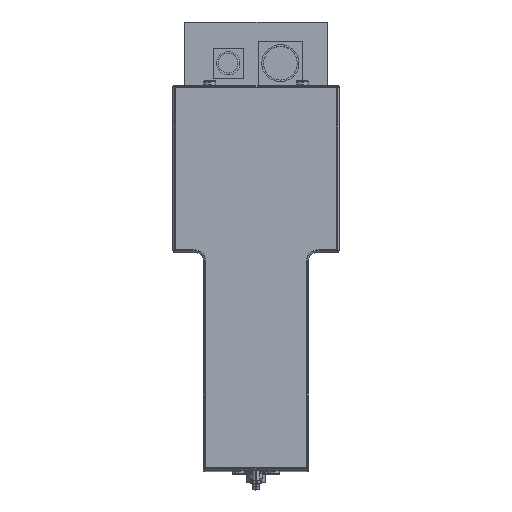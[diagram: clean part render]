
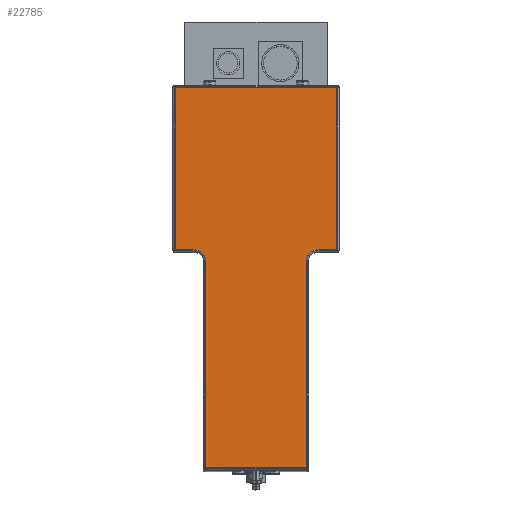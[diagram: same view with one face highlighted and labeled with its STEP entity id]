
A CAD part, top view. The second image highlights one B-rep face of the part: STEP entity #22785.
In plain terms, the highlighted planar face has unit normal (0, 0, 1).
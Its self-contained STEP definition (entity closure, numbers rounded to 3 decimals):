
#38 = CARTESIAN_POINT ( 'NONE',  ( -25.986, -161.771, 1216. ) ) ;
#72 = VERTEX_POINT ( 'NONE', #31487 ) ;
#200 = EDGE_CURVE ( 'NONE', #40562, #72, #324, .T. ) ;
#324 = LINE ( 'NONE', #8336, #24368 ) ;
#518 = ORIENTED_EDGE ( 'NONE', *, *, #16438, .T. ) ;
#670 = LINE ( 'NONE', #4030, #17374 ) ;
#870 = LINE ( 'NONE', #28103, #32304 ) ;
#930 = CARTESIAN_POINT ( 'NONE',  ( -53.986, 165.729, 1216. ) ) ;
#1630 = CARTESIAN_POINT ( 'NONE',  ( -51.986, 25.729, 1216. ) ) ;
#2007 = CARTESIAN_POINT ( 'NONE',  ( -34.986, 25.729, 1216. ) ) ;
#3764 = AXIS2_PLACEMENT_3D ( 'NONE', #37260, #18423, #40439 ) ;
#3943 = CARTESIAN_POINT ( 'NONE',  ( -25.986, 16.729, 1216. ) ) ;
#4030 = CARTESIAN_POINT ( 'NONE',  ( -25.986, -163.771, 1216. ) ) ;
#4424 = VERTEX_POINT ( 'NONE', #22970 ) ;
#5037 = VERTEX_POINT ( 'NONE', #16910 ) ;
#5141 = EDGE_CURVE ( 'NONE', #38203, #38006, #6066, .T. ) ;
#6066 = CIRCLE ( 'NONE', #28662, 9. ) ;
#6291 = DIRECTION ( 'NONE',  ( 0., 1., 0. ) ) ;
#6299 = VERTEX_POINT ( 'NONE', #38 ) ;
#7641 = CARTESIAN_POINT ( 'NONE',  ( 89.014, 25.729, 1216. ) ) ;
#7949 = LINE ( 'NONE', #7641, #31052 ) ;
#8336 = CARTESIAN_POINT ( 'NONE',  ( 87.014, 167.729, 1216. ) ) ;
#9300 = DIRECTION ( 'NONE',  ( 0., 0., 1. ) ) ;
#9322 = EDGE_CURVE ( 'NONE', #72, #4424, #14392, .T. ) ;
#9831 = EDGE_CURVE ( 'NONE', #38006, #6299, #670, .T. ) ;
#9873 = CARTESIAN_POINT ( 'NONE',  ( 63.014, -161.771, 1216. ) ) ;
#9928 = CARTESIAN_POINT ( 'NONE',  ( -51.986, 23.729, 1216. ) ) ;
#10796 = EDGE_CURVE ( 'NONE', #33513, #40562, #7949, .T. ) ;
#11484 = DIRECTION ( 'NONE',  ( 0., 1., 0. ) ) ;
#13641 = VECTOR ( 'NONE', #28719, 1000. ) ;
#13848 = ORIENTED_EDGE ( 'NONE', *, *, #29965, .T. ) ;
#14198 = VECTOR ( 'NONE', #39708, 1000. ) ;
#14392 = LINE ( 'NONE', #930, #34075 ) ;
#15110 = AXIS2_PLACEMENT_3D ( 'NONE', #31135, #9300, #31259 ) ;
#16438 = EDGE_CURVE ( 'NONE', #31234, #33513, #23519, .T. ) ;
#16910 = CARTESIAN_POINT ( 'NONE',  ( 61.014, -161.771, 1216. ) ) ;
#17020 = CARTESIAN_POINT ( 'NONE',  ( 70.014, 25.729, 1216. ) ) ;
#17133 = EDGE_CURVE ( 'NONE', #5037, #31234, #870, .T. ) ;
#17224 = ORIENTED_EDGE ( 'NONE', *, *, #32511, .T. ) ;
#17374 = VECTOR ( 'NONE', #25993, 1000. ) ;
#17585 = CARTESIAN_POINT ( 'NONE',  ( -34.986, 16.729, 1216. ) ) ;
#18423 = DIRECTION ( 'NONE',  ( 0., 0., -1. ) ) ;
#20753 = DIRECTION ( 'NONE',  ( 1., 0., 0. ) ) ;
#20772 = LINE ( 'NONE', #25927, #36507 ) ;
#21036 = LINE ( 'NONE', #9928, #13641 ) ;
#21782 = PLANE ( 'NONE',  #15110 ) ;
#22368 = CARTESIAN_POINT ( 'NONE',  ( 87.014, 25.729, 1216. ) ) ;
#22576 = LINE ( 'NONE', #9873, #14198 ) ;
#22764 = DIRECTION ( 'NONE',  ( 1., 0., 0. ) ) ;
#22785 = ADVANCED_FACE ( 'NONE', ( #40606 ), #21782, .T. ) ;
#22970 = CARTESIAN_POINT ( 'NONE',  ( -51.986, 165.729, 1216. ) ) ;
#23169 = DIRECTION ( 'NONE',  ( 1., 0., 0. ) ) ;
#23519 = CIRCLE ( 'NONE', #3764, 9. ) ;
#24368 = VECTOR ( 'NONE', #11484, 1000. ) ;
#24825 = EDGE_CURVE ( 'NONE', #34082, #38203, #20772, .T. ) ;
#25791 = ORIENTED_EDGE ( 'NONE', *, *, #9322, .T. ) ;
#25927 = CARTESIAN_POINT ( 'NONE',  ( -34.986, 25.729, 1216. ) ) ;
#25993 = DIRECTION ( 'NONE',  ( 0., -1., 0. ) ) ;
#27477 = CARTESIAN_POINT ( 'NONE',  ( 61.014, 16.729, 1216. ) ) ;
#27711 = ORIENTED_EDGE ( 'NONE', *, *, #10796, .T. ) ;
#28103 = CARTESIAN_POINT ( 'NONE',  ( 61.014, 16.729, 1216. ) ) ;
#28662 = AXIS2_PLACEMENT_3D ( 'NONE', #17585, #39597, #20753 ) ;
#28719 = DIRECTION ( 'NONE',  ( 0., -1., 0. ) ) ;
#29202 = DIRECTION ( 'NONE',  ( -1., 0., 0. ) ) ;
#29965 = EDGE_CURVE ( 'NONE', #6299, #5037, #22576, .T. ) ;
#29999 = ORIENTED_EDGE ( 'NONE', *, *, #200, .T. ) ;
#30459 = ORIENTED_EDGE ( 'NONE', *, *, #9831, .T. ) ;
#31052 = VECTOR ( 'NONE', #23169, 1000. ) ;
#31135 = CARTESIAN_POINT ( 'NONE',  ( -34.986, 16.729, 1216. ) ) ;
#31234 = VERTEX_POINT ( 'NONE', #27477 ) ;
#31259 = DIRECTION ( 'NONE',  ( 1., 0., 0. ) ) ;
#31487 = CARTESIAN_POINT ( 'NONE',  ( 87.014, 165.729, 1216. ) ) ;
#32304 = VECTOR ( 'NONE', #6291, 1000. ) ;
#32511 = EDGE_CURVE ( 'NONE', #4424, #34082, #21036, .T. ) ;
#33513 = VERTEX_POINT ( 'NONE', #17020 ) ;
#34075 = VECTOR ( 'NONE', #29202, 1000. ) ;
#34082 = VERTEX_POINT ( 'NONE', #1630 ) ;
#34833 = ORIENTED_EDGE ( 'NONE', *, *, #17133, .T. ) ;
#34974 = ORIENTED_EDGE ( 'NONE', *, *, #24825, .T. ) ;
#36507 = VECTOR ( 'NONE', #22764, 1000. ) ;
#37260 = CARTESIAN_POINT ( 'NONE',  ( 70.014, 16.729, 1216. ) ) ;
#37466 = EDGE_LOOP ( 'NONE', ( #27711, #29999, #25791, #17224, #34974, #40651, #30459, #13848, #34833, #518 ) ) ;
#38006 = VERTEX_POINT ( 'NONE', #3943 ) ;
#38203 = VERTEX_POINT ( 'NONE', #2007 ) ;
#39597 = DIRECTION ( 'NONE',  ( 0., 0., -1. ) ) ;
#39708 = DIRECTION ( 'NONE',  ( 1., 0., 0. ) ) ;
#40439 = DIRECTION ( 'NONE',  ( 1., 0., 0. ) ) ;
#40562 = VERTEX_POINT ( 'NONE', #22368 ) ;
#40606 = FACE_OUTER_BOUND ( 'NONE', #37466, .T. ) ;
#40651 = ORIENTED_EDGE ( 'NONE', *, *, #5141, .T. ) ;
